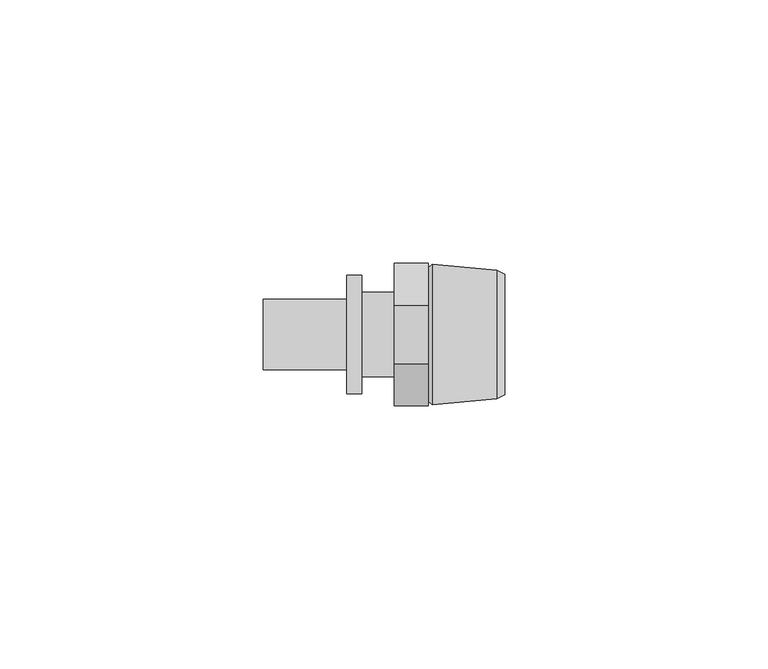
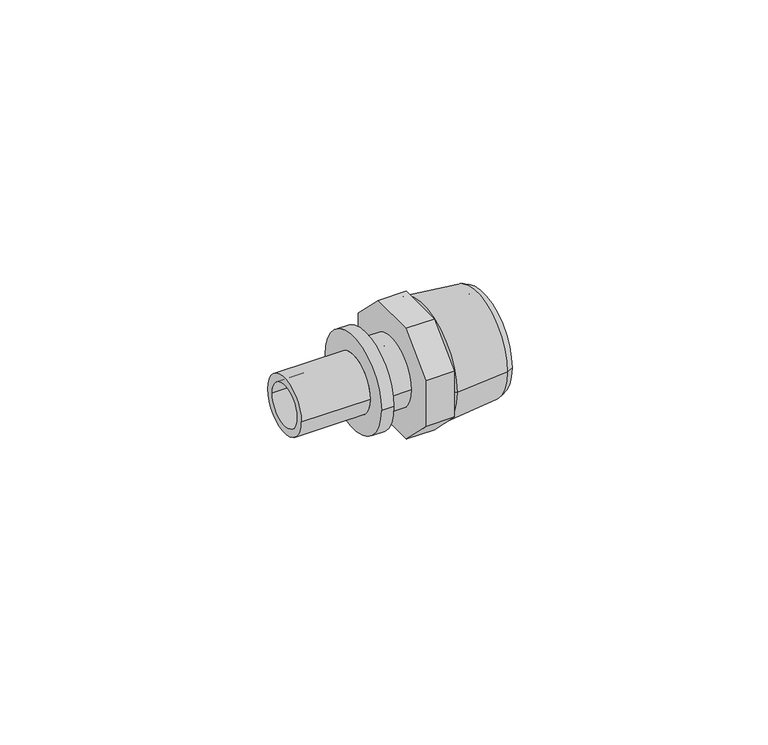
"""IFC4 building model written with IfcOpenShell, lengths in millimetres: pipe fitting geometry, REHAU_RAUTITAN_Adaptor_RX+, with external thread : REHAU_RAUTITAN_Adaptor_RX+, with external thread."""

from ifc_helpers import new_model, si_unit, point, frame, origin, origin_2d, place, context, project, spatial, polyline, circle_curve, trimmed, segment, composite_curve, outline, extrude, source, transform, mapped, element, save
from ifc_brep_helpers import plane_surface, cylinder_surface, revolved_surface, advanced_brep


def pipe_fitting_217c7af4(model_context):
    return source(origin(), model_context, "Body", "SolidModel", [
        advanced_brep(
        [(7.6032803, 9.5, 0.0), (7.6032803, -9.5, 0.0), (21.0, -9.5, 0.0), (21.0, 9.5, 0.0), (6.5, 8.3967197, 0.0), (6.5, -8.3967197, 0.0), (7.2406902, 13.29, 0.0), (7.2406902, -13.29, 0.0), (6.5, -12.7, 0.0), (6.5, 12.7, 0.0), (19.5000007, 12.16, 0.0), (19.5000007, -12.16, 0.0), (21.0, 11.425, 0.0), (21.0, -11.425, 0.0)],
        [
            (0, 1, circle_curve(frame((7.6032803, 0.0, 0.0), z_axis=(-1.0, 0.0, 0.0), x_axis=(0.0, -1.0, 0.0)), 9.5)),
            (1, 2),
            (2, 3, circle_curve(frame((21.0, 0.0, 0.0), z_axis=(1.0, 0.0, 0.0), x_axis=(0.0, -1.0, 0.0)), 9.5)),
            (3, 0),
            (4, 5, circle_curve(frame((6.5, 0.0, 0.0), z_axis=(-1.0, 0.0, 0.0), x_axis=(0.0, -1.0, 0.0)), 8.3967197)),
            (5, 1),
            (0, 4),
            (6, 7, circle_curve(frame((7.2406902, 0.0, 0.0), z_axis=(-1.0, 0.0, 0.0), x_axis=(0.0, -1.0, 0.0)), 13.29)),
            (7, 8),
            (8, 9, circle_curve(frame((6.5, 0.0, 0.0), z_axis=(1.0, 0.0, 0.0), x_axis=(0.0, -1.0, 0.0)), 12.7)),
            (9, 6),
            (10, 11, circle_curve(frame((19.5000007, 0.0, 0.0), z_axis=(-1.0, 0.0, 0.0), x_axis=(0.0, -1.0, 0.0)), 12.16)),
            (11, 7),
            (6, 10),
            (12, 13, circle_curve(frame((21.0, 0.0, 0.0), z_axis=(-1.0, 0.0, 0.0), x_axis=(0.0, -1.0, 0.0)), 11.425)),
            (13, 11),
            (10, 12),
            (1, 0, circle_curve(frame((7.6032803, 0.0, 0.0), z_axis=(-1.0, 0.0, 0.0), x_axis=(0.0, 1.0, 0.0)), 9.5)),
            (3, 2, circle_curve(frame((21.0, 0.0, 0.0), z_axis=(1.0, 0.0, 0.0), x_axis=(0.0, 1.0, 0.0)), 9.5)),
            (5, 4, circle_curve(frame((6.5, 0.0, 0.0), z_axis=(-1.0, 0.0, 0.0), x_axis=(0.0, 1.0, 0.0)), 8.3967197)),
            (8, 9, circle_curve(frame((6.5, 0.0, 0.0), z_axis=(-1.0, 0.0, 0.0), x_axis=(0.0, 1.0, 0.0)), 12.7)),
            (7, 6, circle_curve(frame((7.2406902, 0.0, 0.0), z_axis=(-1.0, 0.0, 0.0), x_axis=(0.0, 1.0, 0.0)), 13.29)),
            (11, 10, circle_curve(frame((19.5000007, 0.0, 0.0), z_axis=(-1.0, 0.0, 0.0), x_axis=(0.0, 1.0, 0.0)), 12.16)),
            (13, 12, circle_curve(frame((21.0, 0.0, 0.0), z_axis=(-1.0, 0.0, 0.0), x_axis=(0.0, 1.0, 0.0)), 11.425)),
        ],
        [
            revolved_surface(polyline([(21.0, -9.5, 0.0), (7.6032803, -9.5, 0.0)]), (0.0, 0.0, 0.0), (1.0, 0.0, 0.0)),
            revolved_surface(polyline([(7.6032803, -9.5, 0.0), (6.5, -8.3967197, 0.0)]), (0.0, 0.0, 0.0), (1.0, 0.0, 0.0)),
            revolved_surface(polyline([(6.5, -12.7, 0.0), (7.2406902, -13.29, 0.0)]), (0.0, 0.0, 0.0), (1.0, 0.0, 0.0)),
            revolved_surface(polyline([(7.2406902, -13.29, 0.0), (19.5000007, -12.16, 0.0)]), (0.0, 0.0, 0.0), (1.0, 0.0, 0.0)),
            revolved_surface(polyline([(19.5000007, -12.16, 0.0), (21.0, -11.425, 0.0)]), (0.0, 0.0, 0.0), (1.0, 0.0, 0.0)),
            revolved_surface(polyline([(21.0, 9.5, 0.0), (7.6032803, 9.5, 0.0)]), (0.0, 0.0, 0.0), (1.0, 0.0, 0.0)),
            revolved_surface(polyline([(7.6032803, 9.5, 0.0), (6.5, 8.3967197, 0.0)]), (0.0, 0.0, 0.0), (1.0, 0.0, 0.0)),
            plane_surface(frame((6.5, 0.0, 0.0), z_axis=(-1.0, 0.0, 0.0), x_axis=(0.0, 1.0, 0.0))),
            revolved_surface(polyline([(6.5, 12.7, 0.0), (7.2406902, 13.29, 0.0)]), (0.0, 0.0, 0.0), (1.0, 0.0, 0.0)),
            revolved_surface(polyline([(7.2406902, 13.29, 0.0), (19.5000007, 12.16, 0.0)]), (0.0, 0.0, 0.0), (1.0, 0.0, 0.0)),
            revolved_surface(polyline([(19.5000007, 12.16, 0.0), (21.0, 11.425, 0.0)]), (0.0, 0.0, 0.0), (1.0, 0.0, 0.0)),
            plane_surface(frame((21.0, 0.0, 0.0), z_axis=(1.0, 0.0, 0.0), x_axis=(0.0, 1.0, 0.0))),
        ],
        [
            (0, [[1, 2, 3, 4]]),
            (1, [[5, 6, -1, 7]]),
            (2, [[8, 9, 10, 11]]),
            (3, [[12, 13, -8, 14]]),
            (4, [[15, 16, -12, 17]]),
            (5, [[18, -4, 19, -2]]),
            (6, [[20, -7, -18, -6]]),
            (7, [[21, -10], [-20, -5]]),
            (8, [[22, -11, -21, -9]]),
            (9, [[23, -14, -22, -13]]),
            (10, [[24, -17, -23, -16]]),
            (11, [[-24, -15], [-19, -3]]),
        ],
    ),
        extrude(outline(polyline([(-5.5918831, -13.5), (-13.5, -5.5918831), (-13.5, 5.5918831), (-5.5918831, 13.5), (5.5918831, 13.5), (13.5, 5.5918831), (13.5, -5.5918831), (5.5918831, -13.5), (-5.5918831, -13.5)]), holes=[composite_curve([segment(trimmed(circle_curve(origin_2d(), 4.95), [point((-4.95, 0.0))], [point((4.95, 0.0))], True, "CARTESIAN"), True, "CONTINUOUS"), segment(trimmed(circle_curve(origin_2d(), 4.95), [point((4.95, 0.0))], [point((-4.95, 0.0))], True, "CARTESIAN"), True, "CONTINUOUS")], self_intersect=False)]), frame((0.0, 0.0, 0.0), z_axis=(1.0, 0.0, 0.0), x_axis=(0.0, 1.0, 0.0)), (0.0, 0.0, 1.0), 6.5),
        advanced_brep(
        [(-24.8, 4.95, 0.0), (-24.8, -4.95, 0.0), (0.0, -4.95, 0.0), (0.0, 4.95, 0.0), (-8.97, 6.725, 0.0), (-8.97, -6.725, 0.0), (-24.8, -6.725, 0.0), (-24.8, 6.725, 0.0), (-6.1, 11.25, 0.0), (-6.1, -11.25, 0.0), (-8.97, -11.25, 0.0), (-8.97, 11.25, 0.0), (0.0, 8.0, 0.0), (0.0, -8.0, 0.0), (-6.1, -8.0, 0.0), (-6.1, 8.0, 0.0)],
        [
            (0, 1, circle_curve(frame((-24.8, 0.0, 0.0), z_axis=(-1.0, 0.0, 0.0), x_axis=(0.0, -1.0, 0.0)), 4.95)),
            (1, 2),
            (2, 3, circle_curve(frame((0.0, 0.0, 0.0), z_axis=(1.0, 0.0, 0.0), x_axis=(0.0, -1.0, 0.0)), 4.95)),
            (3, 0),
            (4, 5, circle_curve(frame((-8.97, 0.0, 0.0), z_axis=(-1.0, 0.0, 0.0), x_axis=(0.0, -1.0, 0.0)), 6.725)),
            (5, 6),
            (6, 7, circle_curve(frame((-24.8, 0.0, 0.0), z_axis=(1.0, 0.0, 0.0), x_axis=(0.0, -1.0, 0.0)), 6.725)),
            (7, 4),
            (8, 9, circle_curve(frame((-6.1, 0.0, 0.0), z_axis=(-1.0, 0.0, 0.0), x_axis=(0.0, -1.0, 0.0)), 11.25)),
            (9, 10),
            (10, 11, circle_curve(frame((-8.97, 0.0, 0.0), z_axis=(1.0, 0.0, 0.0), x_axis=(0.0, -1.0, 0.0)), 11.25)),
            (11, 8),
            (12, 13, circle_curve(frame((0.0, 0.0, 0.0), z_axis=(-1.0, 0.0, 0.0), x_axis=(0.0, -1.0, 0.0)), 8.0)),
            (13, 14),
            (14, 15, circle_curve(frame((-6.1, 0.0, 0.0), z_axis=(1.0, 0.0, 0.0), x_axis=(0.0, -1.0, 0.0)), 8.0)),
            (15, 12),
            (12, 13, circle_curve(frame((0.0, 0.0, 0.0), z_axis=(1.0, 0.0, 0.0), x_axis=(0.0, 1.0, 0.0)), 8.0)),
            (2, 3, circle_curve(frame((0.0, 0.0, 0.0), z_axis=(-1.0, 0.0, 0.0), x_axis=(0.0, 1.0, 0.0)), 4.95)),
            (1, 0, circle_curve(frame((-24.8, 0.0, 0.0), z_axis=(-1.0, 0.0, 0.0), x_axis=(0.0, 1.0, 0.0)), 4.95)),
            (6, 7, circle_curve(frame((-24.8, 0.0, 0.0), z_axis=(-1.0, 0.0, 0.0), x_axis=(0.0, 1.0, 0.0)), 6.725)),
            (5, 4, circle_curve(frame((-8.97, 0.0, 0.0), z_axis=(-1.0, 0.0, 0.0), x_axis=(0.0, 1.0, 0.0)), 6.725)),
            (10, 11, circle_curve(frame((-8.97, 0.0, 0.0), z_axis=(-1.0, 0.0, 0.0), x_axis=(0.0, 1.0, 0.0)), 11.25)),
            (9, 8, circle_curve(frame((-6.1, 0.0, 0.0), z_axis=(-1.0, 0.0, 0.0), x_axis=(0.0, 1.0, 0.0)), 11.25)),
            (14, 15, circle_curve(frame((-6.1, 0.0, 0.0), z_axis=(-1.0, 0.0, 0.0), x_axis=(0.0, 1.0, 0.0)), 8.0)),
        ],
        [
            revolved_surface(polyline([(0.0, -4.95, 0.0), (-24.8, -4.95, 0.0)]), (0.0, 0.0, 0.0), (1.0, 0.0, 0.0)),
            cylinder_surface(frame((0.0, 0.0, 0.0), z_axis=(1.0, 0.0, 0.0), x_axis=(0.0, -1.0, 0.0)), 6.725),
            cylinder_surface(frame((0.0, 0.0, 0.0), z_axis=(1.0, 0.0, 0.0), x_axis=(0.0, -1.0, 0.0)), 11.25),
            cylinder_surface(frame((0.0, 0.0, 0.0), z_axis=(1.0, 0.0, 0.0), x_axis=(0.0, -1.0, 0.0)), 8.0),
            plane_surface(frame((0.0, 0.0, 0.0), z_axis=(1.0, 0.0, 0.0), x_axis=(0.0, 1.0, 0.0))),
            revolved_surface(polyline([(0.0, 4.95, 0.0), (-24.8, 4.95, 0.0)]), (0.0, 0.0, 0.0), (1.0, 0.0, 0.0)),
            plane_surface(frame((-24.8, 0.0, 0.0), z_axis=(-1.0, 0.0, 0.0), x_axis=(0.0, 1.0, 0.0))),
            cylinder_surface(frame((0.0, 0.0, 0.0), z_axis=(1.0, 0.0, 0.0), x_axis=(0.0, 1.0, 0.0)), 6.725),
            plane_surface(frame((-8.97, 0.0, 0.0), z_axis=(-1.0, 0.0, 0.0), x_axis=(0.0, 1.0, 0.0))),
            cylinder_surface(frame((0.0, 0.0, 0.0), z_axis=(1.0, 0.0, 0.0), x_axis=(0.0, 1.0, 0.0)), 11.25),
            plane_surface(frame((-6.1, 0.0, 0.0), z_axis=(1.0, 0.0, 0.0), x_axis=(0.0, 1.0, 0.0))),
            cylinder_surface(frame((0.0, 0.0, 0.0), z_axis=(1.0, 0.0, 0.0), x_axis=(0.0, 1.0, 0.0)), 8.0),
        ],
        [
            (0, [[1, 2, 3, 4]]),
            (1, [[5, 6, 7, 8]]),
            (2, [[9, 10, 11, 12]]),
            (3, [[13, 14, 15, 16]]),
            (4, [[17, -13], [18, -3]]),
            (5, [[19, -4, -18, -2]]),
            (6, [[20, -7], [-19, -1]]),
            (7, [[21, -8, -20, -6]]),
            (8, [[22, -11], [-21, -5]]),
            (9, [[23, -12, -22, -10]]),
            (10, [[-23, -9], [24, -15]]),
            (11, [[-17, -16, -24, -14]]),
        ],
    ),
    ])


if __name__ == "__main__":
    model = new_model("IFC4")
    model_context = context("Model", 3, world=origin())
    ifc_project = project(units=[si_unit("LENGTHUNIT", "METRE", prefix="MILLI")], contexts=[model_context])
    site = spatial("IfcSite", under=ifc_project)
    building = spatial("IfcBuilding", under=site)
    placement = place(None, origin())
    pipe_fitting_shape = pipe_fitting_217c7af4(model_context)
    element("IfcPipeFitting", 1, ObjectType="REHAU_RAUTITAN_Adaptor_RX+, with external thread : REHAU_RAUTITAN_Adaptor_RX+, with external thread", at=placement, inside=building, context=model_context, shape_type="MappedRepresentation", body=[
        mapped(pipe_fitting_shape, transform((0.0, 0.0, 0.0), x_axis=(1.0, 0.0, 0.0), y_axis=(0.0, 1.0, 0.0), z_axis=(0.0, 0.0, 1.0))),
    ])
    save(model, "model.ifc")
